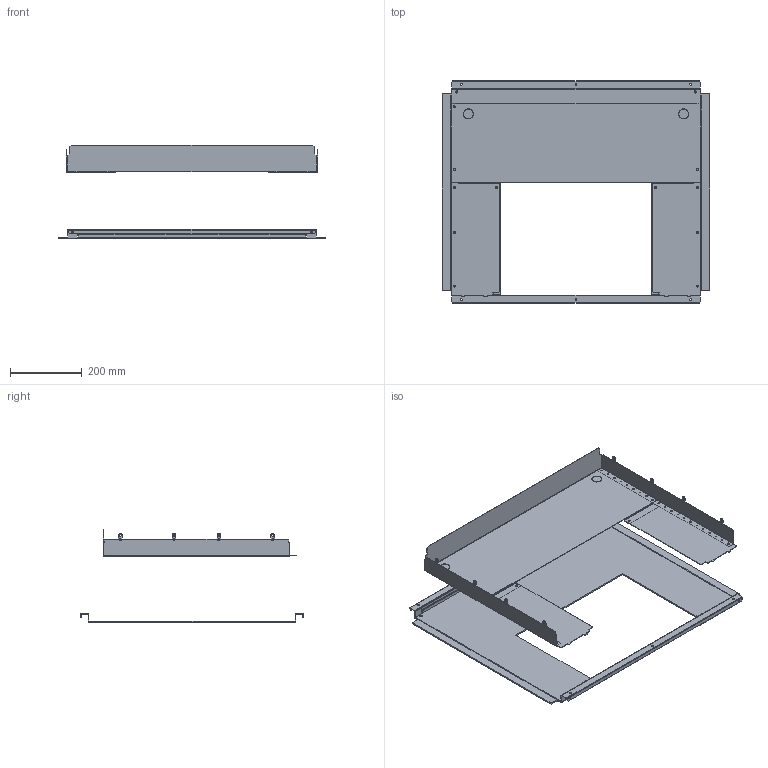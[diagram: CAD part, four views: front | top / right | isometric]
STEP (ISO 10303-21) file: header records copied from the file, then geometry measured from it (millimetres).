
FILE_DESCRIPTION(('CAx-IF Rec.Pracs.---Model Styling and Organization---1.2---2011-12-15','CAx-IF Rec.Pracs.---Geometric and Assembly Validation Properties---4.1---2014-06-16','CAx-IF Rec.Pracs.---PMI Polyline Presentation---2.0---2013-05-24'),'2;1');
FILE_NAME('R5FRC6V811224P.stp','2021-05-14T11:04:34+03:00',(''),(''),'STEP Interface 4.4 by CT CoreTechnologie','3D_Evolution4.4 by CT CoreTechnologie','');
FILE_SCHEMA(('AUTOMOTIVE_DESIGN { 1 0 10303 214 1 1 1 1 }'));
Length unit declared in the file: millimetre
Products named in the file (6): R5FRC6V811224P; RB.1374.00.00.0; RB.2013.00.00.0_-05; RB.0547.00.00.0_-01; RB.2012.00.00.0_-05; RB.2011.00.00.0_-05
Assembly tree (8 placements, depth 2):
  R5FRC6V811224P
    RB.1374.00.00.0  x2
    RB.2013.00.00.0_-05  x2
    RB.0547.00.00.0_-01  x2
    RB.2012.00.00.0_-05
    RB.2011.00.00.0_-05
Bounding box: 745 x 621 x 262 mm (x, y, z)
Surface area: 1491298.5 mm2 (no closed solid volume)
Topology: 0 solids, 10 shells, 596 faces, 1688 edges, 1112 vertices
Faces by surface type: plane 360, cylinder 236
Entity records: 12677 total; most frequent: CARTESIAN_POINT 2135, ORIENTED_EDGE 2112, DIRECTION 2098, EDGE_CURVE 1056, VECTOR 780, LINE 780, VERTEX_POINT 696, AXIS2_PLACEMENT_3D 659
